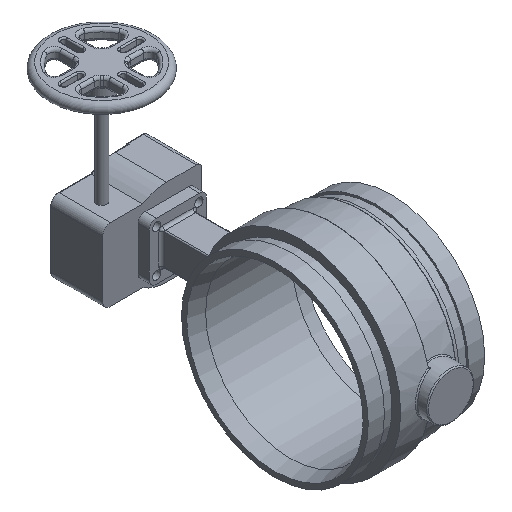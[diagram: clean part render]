
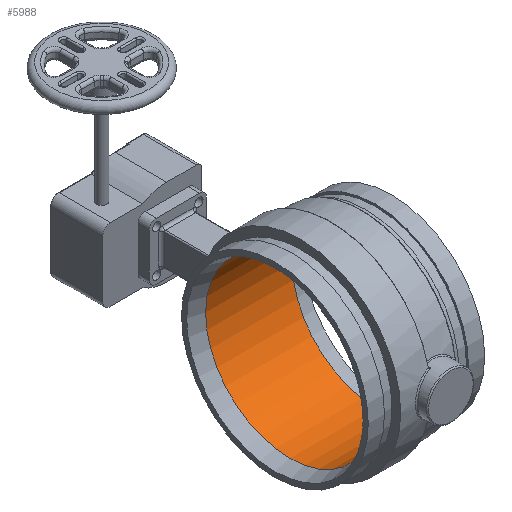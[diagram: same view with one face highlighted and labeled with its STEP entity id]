
A CAD part, isometric view. The second image highlights one B-rep face of the part: STEP entity #5988.
In plain terms, the highlighted cylindrical face has radius 98.806 mm (diameter 197.612 mm), a full revolution.
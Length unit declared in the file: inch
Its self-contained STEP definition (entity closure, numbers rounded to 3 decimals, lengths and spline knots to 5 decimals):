
#447=FACE_OUTER_BOUND('',#833,.T.);
#833=EDGE_LOOP('',(#4107,#4108,#4109,#4110,#4111,#4112));
#1211=LINE('',#10420,#1525);
#1525=VECTOR('',#7686,3.89);
#1869=CIRCLE('',#6524,3.89);
#1872=CIRCLE('',#6527,3.89);
#1891=CIRCLE('',#6557,3.89);
#1892=CIRCLE('',#6558,3.89);
#2389=VERTEX_POINT('',#10354);
#2390=VERTEX_POINT('',#10355);
#2411=VERTEX_POINT('',#10414);
#2412=VERTEX_POINT('',#10416);
#2993=EDGE_CURVE('',#2389,#2390,#1869,.T.);
#2997=EDGE_CURVE('',#2390,#2389,#1872,.T.);
#3021=EDGE_CURVE('',#2412,#2411,#1891,.T.);
#3022=EDGE_CURVE('',#2411,#2412,#1892,.T.);
#3023=EDGE_CURVE('',#2411,#2390,#1211,.T.);
#4107=ORIENTED_EDGE('',*,*,#3021,.T.);
#4108=ORIENTED_EDGE('',*,*,#3023,.T.);
#4109=ORIENTED_EDGE('',*,*,#2993,.F.);
#4110=ORIENTED_EDGE('',*,*,#2997,.F.);
#4111=ORIENTED_EDGE('',*,*,#3023,.F.);
#4112=ORIENTED_EDGE('',*,*,#3022,.T.);
#5415=CYLINDRICAL_SURFACE('',#6559,3.89);
#5988=ADVANCED_FACE('',(#447),#5415,.F.);
#6524=AXIS2_PLACEMENT_3D('',#10356,#7608,#7609);
#6527=AXIS2_PLACEMENT_3D('',#10362,#7615,#7616);
#6557=AXIS2_PLACEMENT_3D('',#10417,#7680,#7681);
#6558=AXIS2_PLACEMENT_3D('',#10418,#7682,#7683);
#6559=AXIS2_PLACEMENT_3D('',#10419,#7684,#7685);
#7608=DIRECTION('center_axis',(0.,0.,-1.));
#7609=DIRECTION('ref_axis',(1.,0.,0.));
#7615=DIRECTION('center_axis',(0.,0.,-1.));
#7616=DIRECTION('ref_axis',(1.,0.,0.));
#7680=DIRECTION('center_axis',(0.,0.,-1.));
#7681=DIRECTION('ref_axis',(1.,0.,0.));
#7682=DIRECTION('center_axis',(0.,0.,-1.));
#7683=DIRECTION('ref_axis',(1.,0.,0.));
#7684=DIRECTION('center_axis',(0.,0.,-1.));
#7685=DIRECTION('ref_axis',(0.,1.,0.));
#7686=DIRECTION('',(0.,0.,1.));
#10354=CARTESIAN_POINT('',(0.,3.89,2.31));
#10355=CARTESIAN_POINT('',(0.,-3.89,2.31));
#10356=CARTESIAN_POINT('Origin',(0.,0.,2.31));
#10362=CARTESIAN_POINT('Origin',(0.,0.,2.31));
#10414=CARTESIAN_POINT('',(0.,-3.89,-1.69));
#10416=CARTESIAN_POINT('',(0.,3.89,-1.69));
#10417=CARTESIAN_POINT('Origin',(0.,0.,-1.69));
#10418=CARTESIAN_POINT('Origin',(0.,0.,-1.69));
#10419=CARTESIAN_POINT('Origin',(0.,0.,-0.69));
#10420=CARTESIAN_POINT('',(0.,-3.89,-0.69));
